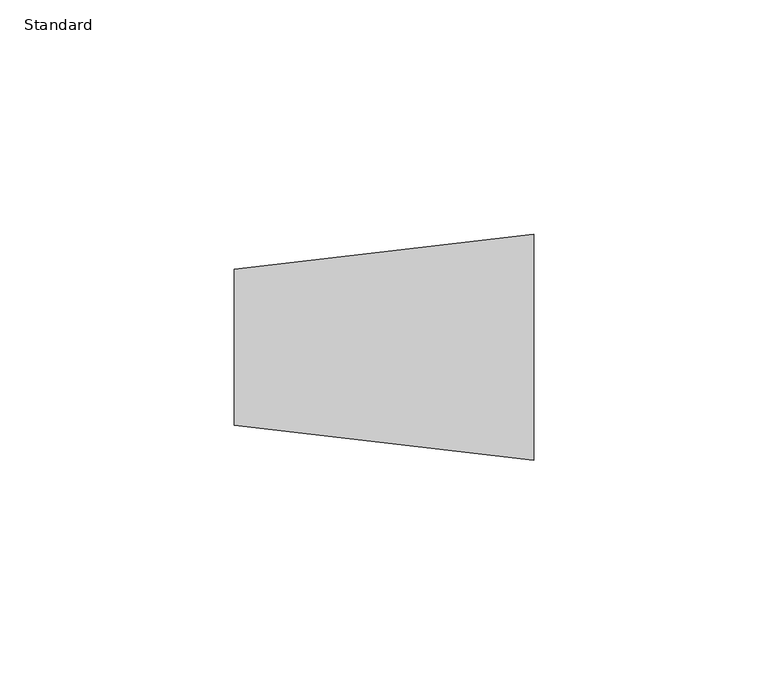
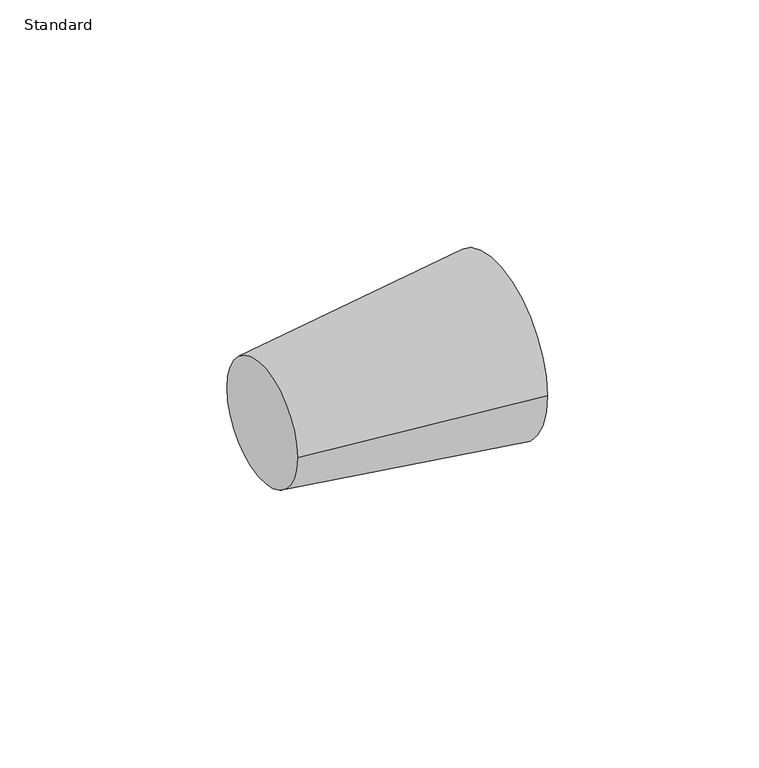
"""IFC4 building model written with IfcOpenShell, lengths in millimetres: pipe fitting geometry, Transformation - Générique : Standard."""

import ifcopenshell
import ifcopenshell.guid

model = None  # the IFC model being written
_history = None  # IfcOwnerHistory: only IFC2X3 demands one
_inside = {}  # id of a spatial element -> (the spatial element, [elements in it])
_under = {}  # id of a project, library or spatial element -> (it, [spatial elements below it])
_declared = {}  # id of a project -> (the project, [libraries it declares])
_typed = {}  # id of a type object -> (the type object, [elements of that type])
_made_of = {}  # id of a material, layer set ... -> (it, [elements and type objects made of it])


def new_model(schema):
    """Start an empty IFC model of exactly this schema.

    Asked for "IFC4X3", IfcOpenShell would pick the latest addendum, in which some entities
    have other attributes; the version numbers below select the first issue.
    IFC2X3 requires an IfcOwnerHistory on every rooted entity: one is made here for all.
    """
    global model, _history
    if schema == "IFC4X3":
        model = ifcopenshell.file(schema_version=(4, 3, 0, 0))
    else:
        model = ifcopenshell.file(schema=schema)
    _inside.clear()
    _under.clear()
    _declared.clear()
    _typed.clear()
    _made_of.clear()
    _history = None
    if model.schema == "IFC2X3":
        org = make("IfcOrganization", Name="unknown")
        user = make(
            "IfcPersonAndOrganization",
            ThePerson=make("IfcPerson", FamilyName="unknown"),
            TheOrganization=org,
        )
        app = make(
            "IfcApplication",
            ApplicationDeveloper=org,
            Version="unknown",
            ApplicationFullName="unknown",
            ApplicationIdentifier="unknown",
        )
        _history = make(
            "IfcOwnerHistory",
            OwningUser=user,
            OwningApplication=app,
            ChangeAction="ADDED",
            CreationDate=0,
        )
    return model


def make(cls, **values):
    """One entity of the class cls with the attributes given. An attribute that is None is left unset."""
    return model.create_entity(
        cls, **{name: value for name, value in values.items() if value is not None}
    )


def rooted(cls, **values):
    """An entity with a GlobalId (a new one), such as an element, a storey or a relation."""
    return make(cls, GlobalId=ifcopenshell.guid.new(), OwnerHistory=_history, **values)


def si_unit(unit_type, name, prefix=None):
    """IfcSIUnit, for example si_unit("LENGTHUNIT", "METRE", prefix="MILLI")."""
    return make("IfcSIUnit", UnitType=unit_type, Prefix=prefix, Name=name)


def assignment(units):
    """IfcUnitAssignment: the units of a project."""
    return None if units is None else make("IfcUnitAssignment", Units=units)


def point(xyz):
    """IfcCartesianPoint."""
    return None if xyz is None else make("IfcCartesianPoint", Coordinates=xyz)


def direction(xyz):
    """IfcDirection."""
    return None if xyz is None else make("IfcDirection", DirectionRatios=xyz)


def frame(location, z_axis=None, x_axis=None):
    """IfcAxis2Placement3D, a coordinate frame: its origin and axes. An axis left out is left unset."""
    return make(
        "IfcAxis2Placement3D",
        Location=point(location),
        Axis=direction(z_axis),
        RefDirection=direction(x_axis),
    )


def origin():
    """The frame at (0, 0, 0) with its axes left unset."""
    return frame((0.0, 0.0, 0.0))


def place(relative_to, where):
    """IfcLocalPlacement: puts the frame where relative to a parent placement (None: the world)."""
    return make(
        "IfcLocalPlacement", PlacementRelTo=relative_to, RelativePlacement=where
    )


def context(
    kind, dimensions, precision=None, world=None, true_north=None, identifier=None
):
    """IfcGeometricRepresentationContext, for example the 3D "Model" context."""
    return make(
        "IfcGeometricRepresentationContext",
        ContextIdentifier=identifier,
        ContextType=kind,
        CoordinateSpaceDimension=dimensions,
        Precision=precision,
        WorldCoordinateSystem=world,
        TrueNorth=true_north,
    )


def project(units=None, contexts=None):
    """IfcProject with its units and contexts."""
    return rooted(
        "IfcProject",
        Name="project",
        RepresentationContexts=contexts,
        UnitsInContext=assignment(units),
    )


def spatial(cls, under=None, at=None, **own):
    """A site, building, storey or space (cls), placed at a placement, below another one or the project."""
    s = rooted(cls, ObjectPlacement=at, **own)
    if under is not None:
        _under.setdefault(under.id(), (under, []))[1].append(s)
    return s


def polyline(points):
    """IfcPolyline through the points."""
    return make("IfcPolyline", Points=[point(p) for p in points])


def circle_curve(where, radius):
    """IfcCircle in the frame where."""
    return make("IfcCircle", Position=where, Radius=radius)


def shape(context_of_items, identifier, shape_type, items):
    """IfcShapeRepresentation: the items that make up one representation, for example the "Body"."""
    return make(
        "IfcShapeRepresentation",
        ContextOfItems=context_of_items,
        RepresentationIdentifier=identifier,
        RepresentationType=shape_type,
        Items=items,
    )


def source(mapping_origin, context_of_items, identifier, shape_type, items):
    """IfcRepresentationMap: a shape defined once, which mapped items show again and again."""
    return make(
        "IfcRepresentationMap",
        MappingOrigin=mapping_origin,
        MappedRepresentation=shape(context_of_items, identifier, shape_type, items),
    )


def transform(
    local_origin,
    x_axis=None,
    y_axis=None,
    z_axis=None,
    scale=None,
    scale2=None,
    scale3=None,
    uniform=True,
):
    """IfcCartesianTransformationOperator3D, or its non-uniform kind. x_axis, y_axis, z_axis: its Axis1, 2, 3."""
    if uniform:
        return make(
            "IfcCartesianTransformationOperator3D",
            Axis1=direction(x_axis),
            Axis2=direction(y_axis),
            LocalOrigin=point(local_origin),
            Scale=scale,
            Axis3=direction(z_axis),
        )
    return make(
        "IfcCartesianTransformationOperator3DnonUniform",
        Axis1=direction(x_axis),
        Axis2=direction(y_axis),
        LocalOrigin=point(local_origin),
        Scale=scale,
        Axis3=direction(z_axis),
        Scale2=scale2,
        Scale3=scale3,
    )


def mapped(mapping_source, mapping_target):
    """IfcMappedItem: shows the shape of a source again, moved by a transform."""
    return make(
        "IfcMappedItem", MappingSource=mapping_source, MappingTarget=mapping_target
    )


def made_of(thing, what):
    """Note that an element or type object is made of a material, layer set ...; save() writes the relation."""
    if what is not None:
        _made_of.setdefault(what.id(), (what, []))[1].append(thing)
    return thing


def element(
    cls,
    number,
    at=None,
    inside=None,
    cuts=None,
    type_object=None,
    material=None,
    context=None,
    identifier="Body",
    shape_type=None,
    held_by="IfcProductDefinitionShape",
    body=None,
    shapes=None,
    **own,
):
    """One element of the class cls, such as IfcWall. Its Tag is "e" and its number.

    at: its placement. inside: the storey or other place that contains it. cuts: it is an
    opening in that element (IfcRelVoidsElement). A single representation is given by context,
    identifier, shape_type and body (its items); several are given by shapes. held_by: the class
    of the entity that holds the representations. save() writes the other relations.
    """
    e = rooted(cls, Tag="e%d" % number, ObjectPlacement=at, **own)
    if body is not None:
        shapes = [shape(context, identifier, shape_type, body)]
    if shapes is not None:
        e.Representation = make(held_by, Representations=shapes)
    if inside is not None:
        _inside.setdefault(inside.id(), (inside, []))[1].append(e)
    if cuts is not None:
        rooted(
            "IfcRelVoidsElement", RelatingBuildingElement=cuts, RelatedOpeningElement=e
        )
    if type_object is not None:
        _typed.setdefault(type_object.id(), (type_object, []))[1].append(e)
    return made_of(e, material)


def aggregate(whole, parts):
    """IfcRelAggregates: a whole, such as a stair, and the parts it consists of."""
    return rooted("IfcRelAggregates", RelatingObject=whole, RelatedObjects=parts)


def save(model, path):
    """Write the relations noted so far, then the file.

    IfcRelAggregates (storeys below a building ...), IfcRelContainedInSpatialStructure (elements
    in a storey), IfcRelDefinesByType, IfcRelAssociatesMaterial and IfcRelDeclares: one each for
    every whole, place, type object, material and project.
    """
    for whole, parts in _under.values():
        aggregate(whole, parts)
    for where, things in _inside.values():
        rooted(
            "IfcRelContainedInSpatialStructure",
            RelatedElements=things,
            RelatingStructure=where,
        )
    for kind, things in _typed.values():
        rooted("IfcRelDefinesByType", RelatedObjects=things, RelatingType=kind)
    for what, things in _made_of.values():
        rooted("IfcRelAssociatesMaterial", RelatedObjects=things, RelatingMaterial=what)
    for by, libraries in _declared.values():
        rooted("IfcRelDeclares", RelatingContext=by, RelatedDefinitions=libraries)
    model.write(path)


def plane_surface(at):
    """IfcPlane: the flat surface through the origin of the frame at, square to its z axis."""
    return make("IfcPlane", Position=at)


def revolved_surface(curve, axis_point, axis_direction):
    """IfcSurfaceOfRevolution: the curve turned about the line through axis_point along axis_direction."""
    return make(
        "IfcSurfaceOfRevolution",
        SweptCurve=make("IfcArbitraryOpenProfileDef", ProfileType="CURVE", Curve=curve),
        AxisPosition=make("IfcAxis1Placement", Location=point(axis_point), Axis=direction(axis_direction)),
    )


def advanced_brep(points, edges, surfaces, faces):
    """IfcAdvancedBrep: a solid bounded by faces that lie on surfaces and meet in shared edges.

    An edge is (start, end): straight between two places in points (the first is 0);
    or (start, end, curve); or (start, end, curve, False) where it runs against its curve.
    A face is (place in surfaces, loops), or (place, loops, False) where it looks against
    its surface's normal. A loop lists edges by number (the first is 1), with a minus sign
    where the edge is run from its end to its start. The first loop is the outer one.
    """
    corners = [point(p) for p in points]
    vertices = [make("IfcVertexPoint", VertexGeometry=c) for c in corners]
    made = []
    for start, end, *more in edges:
        made.append(
            make(
                "IfcEdgeCurve",
                EdgeStart=vertices[start],
                EdgeEnd=vertices[end],
                EdgeGeometry=more[0] if more else make("IfcPolyline", Points=[corners[start], corners[end]]),
                SameSense=more[1] if len(more) > 1 else True,
            )
        )
    hull = []
    for where, loops, *sense in faces:
        bounds = []
        for j, loop in enumerate(loops):
            ring = [make("IfcOrientedEdge", EdgeElement=made[abs(k) - 1], Orientation=k > 0) for k in loop]
            bounds.append(
                make(
                    "IfcFaceOuterBound" if j == 0 else "IfcFaceBound",
                    Bound=make("IfcEdgeLoop", EdgeList=ring),
                    Orientation=True,
                )
            )
        hull.append(make("IfcAdvancedFace", Bounds=bounds, FaceSurface=surfaces[where], SameSense=sense[0] if sense else True))
    return make("IfcAdvancedBrep", Outer=make("IfcClosedShell", CfsFaces=hull))


def standard_adaf6522(model_context):
    return source(origin(), model_context, "Body", "AdvancedBrep", [
        advanced_brep(
        [(64.0, -24.15, 0.0), (64.0, 24.15, 0.0), (0.0, -16.7, 0.0), (0.0, 16.7, 0.0)],
        [
            (0, 1, circle_curve(frame((64.0, 0.0, 0.0), z_axis=(1.0, 0.0, 0.0), x_axis=(0.0, -1.0, 0.0)), 24.15)),
            (1, 0, circle_curve(frame((64.0, 0.0, 0.0), z_axis=(1.0, 0.0, 0.0), x_axis=(0.0, 1.0, 0.0)), 24.15)),
            (2, 3, circle_curve(frame((0.0, 0.0, 0.0), z_axis=(-1.0, 0.0, 0.0), x_axis=(0.0, 1.0, 0.0)), 16.7)),
            (3, 2, circle_curve(frame((0.0, 0.0, 0.0), z_axis=(-1.0, 0.0, 0.0), x_axis=(0.0, -1.0, 0.0)), 16.7)),
            (3, 1),
            (0, 2),
        ],
        [
            plane_surface(frame((64.0, 0.0, 0.0), z_axis=(1.0, 0.0, 0.0), x_axis=(0.0, 0.0, -1.0))),
            plane_surface(frame((0.0, 0.0, 0.0), z_axis=(-1.0, 0.0, 0.0), x_axis=(0.0, 0.0, -1.0))),
            revolved_surface(polyline([(0.0, 16.69999999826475, 0.0), (64.0, 24.15, 0.0)]), (-143.4630872, 0.0, 0.0), (1.0, 0.0, 0.0)),
            revolved_surface(polyline([(0.0, -16.69999999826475, 0.0), (64.0, -24.15, 0.0)]), (-143.4630872, 0.0, 0.0), (1.0, 0.0, 0.0)),
        ],
        [
            (0, [[1, 2]]),
            (1, [[3, 4]]),
            (2, [[-4, 5, -1, 6]]),
            (3, [[-3, -6, -2, -5]]),
        ],
    ),
    ])


if __name__ == "__main__":
    model = new_model("IFC4")
    model_context = context("Model", 3, world=origin())
    ifc_project = project(units=[si_unit("LENGTHUNIT", "METRE", prefix="MILLI")], contexts=[model_context])
    site = spatial("IfcSite", under=ifc_project)
    building = spatial("IfcBuilding", under=site)
    placement = place(None, origin())
    standard_shape = standard_adaf6522(model_context)
    element("IfcPipeFitting", 1, ObjectType="Transformation - Générique : Standard", at=placement, inside=building, context=model_context, shape_type="MappedRepresentation", body=[
        mapped(standard_shape, transform((0.0, 0.0, 0.0), x_axis=(1.0, 0.0, 0.0), y_axis=(0.0, 1.0, 0.0), z_axis=(0.0, 0.0, 1.0))),
    ])
    save(model, "model.ifc")
